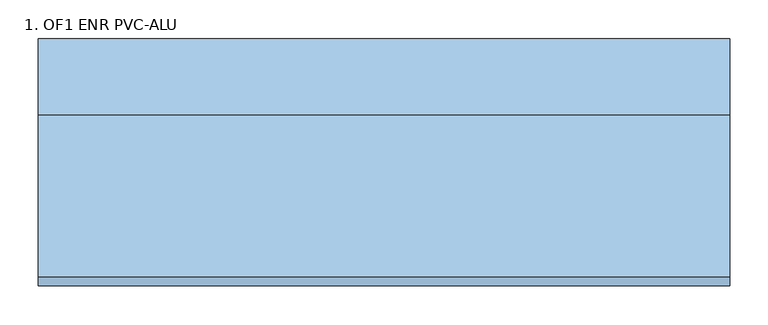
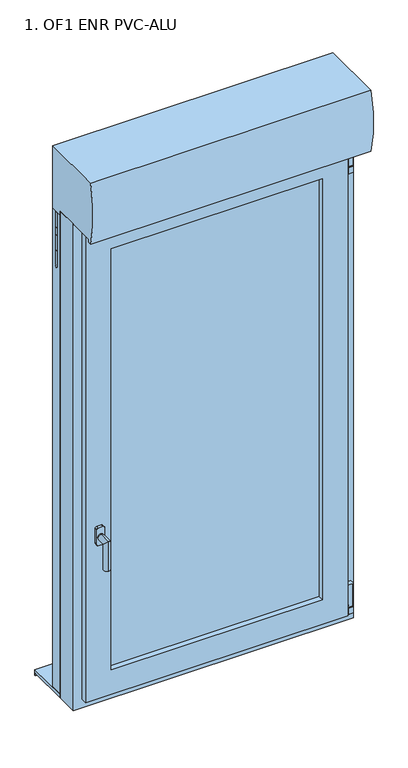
"""IFC4 building model written with IfcOpenShell, lengths in millimetres: window geometry, 1. OF1 ENR PVC-ALU : 130X165 (LXH) cm."""

from ifc_helpers import new_model, si_unit, point, frame, frame_2d, origin, place, context, project, spatial, polyline, circle_curve, ellipse_curve, trimmed, segment, composite_curve, outline, extrude, faceted_brep, source, transform, mapped, element, save
from ifc_brep_helpers import plane_surface, cylinder_surface, advanced_brep


def window_1_of1_enr_pvc_alu_93b9386a(model_context):
    return source(origin(), model_context, "Body", "SolidModel", [
        extrude(outline(composite_curve([segment(polyline([(2401.5409737, 426.552), (2401.5409737, 441.552), (2419.5473568, 441.552)]), True, "CONTINUOUS"), segment(trimmed(circle_curve(frame_2d((2419.5473568, 439.5583831)), 1.9936169), [point((2419.5473568, 441.552))], [point((2421.5409737, 439.5583831))], False, "CARTESIAN"), True, "CONTINUOUS"), segment(polyline([(2421.5409737, 439.5583831), (2421.5409737, 428.5196754)]), True, "CONTINUOUS"), segment(trimmed(circle_curve(frame_2d((2419.5732983, 428.5196754)), 1.9676754), [point((2421.5409737, 428.5196754))], [point((2419.5732983, 426.552))], False, "CARTESIAN"), True, "CONTINUOUS"), segment(polyline([(2419.5732983, 426.552), (2401.5409737, 426.552)]), True, "CONTINUOUS")], self_intersect=False)), frame((0.0, -115.0338923, 0.0), z_axis=(0.0, 1.0, 0.0), x_axis=(0.0, 0.0, 1.0)), (0.0, 0.0, 1.0), 15.0),
        extrude(outline(composite_curve([segment(trimmed(circle_curve(frame_2d((434.2725562, -107.5434807)), 5.0), [point((429.2725562, -107.5434807))], [point((439.2725562, -107.5434807))], False, "CARTESIAN"), True, "CONTINUOUS"), segment(trimmed(circle_curve(frame_2d((434.2725562, -107.5434807)), 5.0), [point((439.2725562, -107.5434807))], [point((429.2725562, -107.5434807))], False, "CARTESIAN"), True, "CONTINUOUS")], self_intersect=False)), frame((0.0, 0.0, 2341.5409737), z_axis=(0.0, 0.0, 1.0), x_axis=(1.0, 0.0, 0.0)), (0.0, 0.0, 1.0), 60.0),
        extrude(outline(composite_curve([segment(polyline([(421.552, -100.0434807), (439.5938237, -100.0434807)]), True, "CONTINUOUS"), segment(trimmed(circle_curve(frame_2d((439.5938237, -102.001657)), 1.9581763), [point((439.5938237, -100.0434807))], [point((441.552, -102.001657))], False, "CARTESIAN"), True, "CONTINUOUS"), segment(polyline([(441.552, -102.001657), (441.552, -113.0253033)]), True, "CONTINUOUS"), segment(trimmed(circle_curve(frame_2d((439.5338225, -113.0253033)), 2.0181775), [point((441.552, -113.0253033))], [point((439.5338225, -115.0434807))], False, "CARTESIAN"), True, "CONTINUOUS"), segment(polyline([(439.5338225, -115.0434807), (421.552, -115.0434807), (421.552, -100.0434807)]), True, "CONTINUOUS")], self_intersect=False)), frame((0.0, 0.0, 2347.2674355), z_axis=(0.0, 0.0, 1.0), x_axis=(1.0, 0.0, 0.0)), (0.0, 0.0, 1.0), 50.0),
        extrude(outline(composite_curve([segment(polyline([(2342.2674355, 441.7725562), (2342.2674355, 426.7725562), (2324.2766853, 426.7725562)]), True, "CONTINUOUS"), segment(trimmed(circle_curve(frame_2d((2324.2766853, 428.7818059)), 2.0092498), [point((2324.2766853, 426.7725562))], [point((2322.2674355, 428.7818059))], False, "CARTESIAN"), True, "CONTINUOUS"), segment(polyline([(2322.2674355, 428.7818059), (2322.2674355, 440.1223507)]), True, "CONTINUOUS"), segment(trimmed(circle_curve(frame_2d((2324.2411049, 439.7988867)), 2.0), [point((2322.2674355, 440.1223507))], [point((2323.9176409, 441.7725562))], False, "CARTESIAN"), True, "CONTINUOUS"), segment(polyline([(2323.9176409, 441.7725562), (2342.2674355, 441.7725562)]), True, "CONTINUOUS")], self_intersect=False)), frame((0.0, -115.0338923, 0.0), z_axis=(0.0, 1.0, 0.0), x_axis=(0.0, 0.0, 1.0)), (0.0, 0.0, 1.0), 15.0),
        extrude(outline(composite_curve([segment(trimmed(circle_curve(frame_2d((434.2725562, -107.5434807)), 5.0), [point((429.2725562, -107.5434807))], [point((439.2725562, -107.5434807))], False, "CARTESIAN"), True, "CONTINUOUS"), segment(trimmed(circle_curve(frame_2d((434.2725562, -107.5434807)), 5.0), [point((439.2725562, -107.5434807))], [point((429.2725562, -107.5434807))], False, "CARTESIAN"), True, "CONTINUOUS")], self_intersect=False)), frame((0.0, 0.0, 848.448), z_axis=(0.0, 0.0, 1.0), x_axis=(1.0, 0.0, 0.0)), (0.0, 0.0, 1.0), 5.0),
        extrude(outline(composite_curve([segment(polyline([(848.448, 441.7725562), (848.448, 426.7725562), (830.4572498, 426.7725562)]), True, "CONTINUOUS"), segment(trimmed(circle_curve(frame_2d((830.4572498, 428.7818059)), 2.0092498), [point((830.4572498, 426.7725562))], [point((828.448, 428.7818059))], False, "CARTESIAN"), True, "CONTINUOUS"), segment(polyline([(828.448, 428.7818059), (828.448, 440.1223507)]), True, "CONTINUOUS"), segment(trimmed(circle_curve(frame_2d((830.4216694, 439.7988867)), 2.0), [point((828.448, 440.1223507))], [point((830.0982054, 441.7725562))], False, "CARTESIAN"), True, "CONTINUOUS"), segment(polyline([(830.0982054, 441.7725562), (848.448, 441.7725562)]), True, "CONTINUOUS")], self_intersect=False)), frame((0.0, -115.0338923, 0.0), z_axis=(0.0, 1.0, 0.0), x_axis=(0.0, 0.0, 1.0)), (0.0, 0.0, 1.0), 15.0),
        extrude(outline(composite_curve([segment(polyline([(421.552, -100.0434807), (439.5938237, -100.0434807)]), True, "CONTINUOUS"), segment(trimmed(circle_curve(frame_2d((439.5938237, -102.001657)), 1.9581763), [point((439.5938237, -100.0434807))], [point((441.552, -102.001657))], False, "CARTESIAN"), True, "CONTINUOUS"), segment(polyline([(441.552, -102.001657), (441.552, -113.0253033)]), True, "CONTINUOUS"), segment(trimmed(circle_curve(frame_2d((439.5338225, -113.0253033)), 2.0181775), [point((441.552, -113.0253033))], [point((439.5338225, -115.0434807))], False, "CARTESIAN"), True, "CONTINUOUS"), segment(polyline([(439.5338225, -115.0434807), (421.552, -115.0434807), (421.552, -100.0434807)]), True, "CONTINUOUS")], self_intersect=False)), frame((0.0, 0.0, 853.448), z_axis=(0.0, 0.0, 1.0), x_axis=(1.0, 0.0, 0.0)), (0.0, 0.0, 1.0), 75.0),
        faceted_brep([(449.992, -28.9, 2450.0), (449.992, -100.02, 2450.0), (449.992, -100.02, 800.0), (449.992, -28.9, 800.0), (-450.008, -100.02, 2450.0), (-450.008, -100.02, 800.0), (413.416, -100.02, 836.576), (-413.432, -100.02, 836.576), (-413.432, -100.02, 2413.424), (413.416, -100.02, 2413.424), (-450.008, -28.9, 800.0), (-450.008, -28.9, 2450.0), (392.0903858, -28.9, 2392.0983858), (-392.1063858, -28.9, 2392.0983858), (-392.1063858, -28.9, 857.9016142), (392.0903858, -28.9, 857.9016142), (413.416, -44.648, 2413.424), (413.416, -44.648, 836.576), (-413.432, -44.648, 2413.424), (-413.432, -44.648, 836.576), (392.0903858, -44.648, 857.9016142), (-392.1063858, -44.648, 857.9016142), (-392.1063858, -44.648, 2392.0983858), (392.0903858, -44.648, 2392.0983858)], [[[0, 1, 2, 3]], [[1, 4, 5, 2], [6, 7, 8, 9]], [[3, 2, 5, 10]], [[3, 10, 11, 0], [12, 13, 14, 15]], [[9, 16, 17, 6]], [[16, 18, 19, 17], [20, 21, 22, 23]], [[6, 17, 19, 7]], [[23, 12, 15, 20]], [[20, 15, 14, 21]], [[10, 5, 4, 11]], [[7, 19, 18, 8]], [[21, 14, 13, 22]], [[11, 4, 1, 0]], [[8, 18, 16, 9]], [[22, 13, 12, 23]]]),
        faceted_brep([(-450.0, -100.02, 2450.0), (-450.0, -28.9, 2450.0), (-450.0, -28.9, 800.0), (-450.0, -100.02, 800.0), (450.0, -28.9, 2450.0), (450.0, -28.9, 800.0), (-392.0983858, -28.9, 857.9016142), (392.0983858, -28.9, 857.9016142), (392.0983858, -28.9, 2392.0983858), (-392.0983858, -28.9, 2392.0983858), (450.0, -100.02, 800.0), (450.0, -100.02, 2450.0), (-413.424, -100.02, 2413.424), (413.424, -100.02, 2413.424), (413.424, -100.02, 836.576), (-413.424, -100.02, 836.576), (-413.424, -44.648, 2413.424), (-413.424, -44.648, 836.576), (413.424, -44.648, 836.576), (413.424, -44.648, 2413.424), (-392.0983858, -44.648, 2392.0983858), (392.0983858, -44.648, 2392.0983858), (392.0983858, -44.648, 857.9016142), (-392.0983858, -44.648, 857.9016142)], [[[0, 1, 2, 3]], [[1, 4, 5, 2], [6, 7, 8, 9]], [[3, 2, 5, 10]], [[3, 10, 11, 0], [12, 13, 14, 15]], [[16, 12, 15, 17]], [[17, 15, 14, 18]], [[17, 18, 19, 16], [20, 21, 22, 23]], [[9, 20, 23, 6]], [[6, 23, 22, 7]], [[10, 5, 4, 11]], [[18, 14, 13, 19]], [[7, 22, 21, 8]], [[11, 4, 1, 0]], [[19, 13, 12, 16]], [[8, 21, 20, 9]]]),
        extrude(outline(polyline([(353.4, -96.019954), (353.4, -100.019954), (-353.4, -100.019954), (-353.4, -96.019954), (353.4, -96.019954)])), frame((0.0, 0.0, 896.5824883), z_axis=(0.0, 0.0, 1.0), x_axis=(1.0, 0.0, 0.0)), (0.0, 0.0, 1.0), 1456.8350233),
        extrude(outline(polyline([(353.4, -68.9786213), (353.4, -72.9786213), (-353.4, -72.9786213), (-353.4, -68.9786213), (353.4, -68.9786213)])), frame((0.0, 0.0, 896.5824883), z_axis=(0.0, 0.0, 1.0), x_axis=(1.0, 0.0, 0.0)), (0.0, 0.0, 1.0), 1456.8350233),
        extrude(outline(polyline([(353.4, -41.9786213), (353.4, -45.9786213), (-353.4, -45.9786213), (-353.4, -41.9786213), (353.4, -41.9786213)])), frame((0.0, 0.0, 896.5824883), z_axis=(0.0, 0.0, 1.0), x_axis=(1.0, 0.0, 0.0)), (0.0, 0.0, 1.0), 1456.8350233),
        faceted_brep([(361.6086701, -48.2039543, 2361.6086701), (361.6086701, -100.019954, 2361.6086701), (361.6086701, -100.019954, 888.3913299), (361.6086701, -48.2039543, 888.3913299), (-361.6086701, -100.019954, 2361.6086701), (-361.6086701, -100.019954, 888.3913299), (353.4175117, -100.019954, 896.5824883), (-353.4175117, -100.019954, 896.5824883), (-353.4175117, -100.019954, 2353.4175117), (353.4175117, -100.019954, 2353.4175117), (-361.6086701, -48.2039543, 888.3913299), (-386.5514701, -48.2039543, 2386.5514701), (-386.5514701, -48.2039543, 863.4485299), (386.5514701, -48.2039543, 863.4485299), (386.5514701, -48.2039543, 2386.5514701), (-361.6086701, -48.2039543, 2361.6086701), (386.5514701, -28.7475756, 2386.5514701), (386.5514701, -28.7475756, 863.4485299), (-386.5514701, -28.7475756, 863.4485299), (-386.5514701, -28.7475756, 2386.5514701), (-335.3393386, -28.7475756, 2335.3393386), (-335.3393386, -28.7475756, 914.6606614), (335.3393386, -28.7475756, 914.6606614), (335.3393386, -28.7475756, 2335.3393386), (335.3393386, -41.9786213, 2335.3393386), (335.3393386, -41.9786213, 914.6606614), (-335.3393386, -41.9786213, 914.6606614), (-353.4175117, -41.9786213, 2353.4175117), (-353.4175117, -41.9786213, 896.5824883), (353.4175117, -41.9786213, 896.5824883), (353.4175117, -41.9786213, 2353.4175117), (-335.3393386, -41.9786213, 2335.3393386), (339.5240492, -96.019954, 2339.5240492), (339.5240492, -72.9786213, 2339.5240492), (339.5240492, -72.9786213, 910.4759508), (339.5240492, -96.019954, 910.4759508), (353.4175117, -72.9786213, 896.5824883), (-353.4175117, -72.9786213, 896.5824883), (-353.4175117, -72.9786213, 2353.4175117), (353.4175117, -72.9786213, 2353.4175117), (-339.5240492, -72.9786213, 2339.5240492), (-339.5240492, -72.9786213, 910.4759508), (-339.5240492, -96.019954, 910.4759508), (-353.4175117, -96.019954, 2353.4175117), (-353.4175117, -96.019954, 896.5824883), (353.4175117, -96.019954, 896.5824883), (353.4175117, -96.019954, 2353.4175117), (-339.5240492, -96.019954, 2339.5240492), (353.4175117, -68.9786213, 2353.4175117), (353.4175117, -68.9786213, 896.5824883), (-353.4175117, -68.9786213, 2353.4175117), (-353.4175117, -68.9786213, 896.5824883), (336.1974041, -68.9786213, 913.8025959), (-336.1974041, -68.9786213, 913.8025959), (-336.1974041, -68.9786213, 2336.1974041), (336.1974041, -68.9786213, 2336.1974041), (353.4175117, -45.9786213, 2353.4175117), (353.4175117, -45.9786213, 896.5824883), (-353.4175117, -45.9786213, 896.5824883), (-353.4175117, -45.9786213, 2353.4175117), (-336.1974041, -45.9786213, 2336.1974041), (-336.1974041, -45.9786213, 913.8025959), (336.1974041, -45.9786213, 913.8025959), (336.1974041, -45.9786213, 2336.1974041)], [[[0, 1, 2, 3]], [[4, 5, 2, 1], [6, 7, 8, 9]], [[3, 2, 5, 10]], [[11, 12, 13, 14], [3, 10, 15, 0]], [[16, 14, 13, 17]], [[17, 13, 12, 18]], [[17, 18, 19, 16], [20, 21, 22, 23]], [[24, 23, 22, 25]], [[25, 22, 21, 26]], [[27, 28, 29, 30], [25, 26, 31, 24]], [[32, 33, 34, 35]], [[36, 37, 38, 39], [33, 40, 41, 34]], [[35, 34, 41, 42]], [[43, 44, 45, 46], [35, 42, 47, 32]], [[9, 46, 45, 6]], [[6, 45, 44, 7]], [[39, 48, 49, 36]], [[50, 51, 49, 48], [52, 53, 54, 55]], [[36, 49, 51, 37]], [[56, 30, 29, 57]], [[57, 29, 28, 58]], [[57, 58, 59, 56], [60, 61, 62, 63]], [[55, 63, 62, 52]], [[52, 62, 61, 53]], [[42, 41, 40, 47]], [[7, 44, 43, 8]], [[10, 5, 4, 15]], [[18, 12, 11, 19]], [[26, 21, 20, 31]], [[58, 28, 27, 59]], [[53, 61, 60, 54]], [[37, 51, 50, 38]], [[15, 4, 1, 0]], [[19, 11, 14, 16]], [[31, 20, 23, 24]], [[47, 40, 33, 32]], [[8, 43, 46, 9]], [[38, 50, 48, 39]], [[59, 27, 30, 56]], [[54, 60, 63, 55]]]),
        faceted_brep([(-421.552, -119.3239543, 828.448), (-421.552, -100.0434807, 828.448), (421.552, -100.0434807, 828.448), (421.552, -119.3239543, 828.448), (421.552, -100.0434807, 2421.552), (421.552, -119.3239543, 2421.552), (-421.552, -100.0434807, 2421.552), (401.232, -100.0434807, 2401.232), (-401.232, -100.0434807, 2401.232), (-401.232, -100.0434807, 848.768), (401.232, -100.0434807, 848.768), (-421.552, -119.3239543, 2421.552), (339.3505043, -119.3239543, 910.6494957), (-339.3505043, -119.3239543, 910.6494957), (-339.3505043, -119.3239543, 2339.3505043), (339.3505043, -119.3239543, 2339.3505043), (-339.3505043, -100.019954, 910.6494957), (339.3505043, -100.019954, 910.6494957), (339.3505043, -100.019954, 2339.3505043), (361.6086701, -100.019954, 888.3913299), (-361.6086701, -100.019954, 888.3913299), (-361.6086701, -100.019954, 2361.6086701), (361.6086701, -100.019954, 2361.6086701), (-339.3505043, -100.019954, 2339.3505043), (-361.6086701, -48.2039543, 888.3913299), (361.6086701, -48.2039543, 888.3913299), (361.6086701, -48.2039543, 2361.6086701), (392.0983858, -48.2039543, 857.9016142), (-392.0983858, -48.2039543, 857.9016142), (-392.0983858, -48.2039543, 2392.0983858), (392.0983858, -48.2039543, 2392.0983858), (-361.6086701, -48.2039543, 2361.6086701), (-392.0983858, -44.648, 857.9016142), (392.0983858, -44.648, 857.9016142), (392.0983858, -44.648, 2392.0983858), (401.232, -44.648, 848.768), (-401.232, -44.648, 848.768), (-401.232, -44.648, 2401.232), (401.232, -44.648, 2401.232), (-392.0983858, -44.648, 2392.0983858)], [[[0, 1, 2, 3]], [[3, 2, 4, 5]], [[2, 1, 6, 4], [7, 8, 9, 10]], [[5, 11, 0, 3], [12, 13, 14, 15]], [[16, 13, 12, 17]], [[17, 12, 15, 18]], [[19, 20, 21, 22], [18, 23, 16, 17]], [[24, 20, 19, 25]], [[25, 19, 22, 26]], [[27, 28, 29, 30], [26, 31, 24, 25]], [[32, 28, 27, 33]], [[33, 27, 30, 34]], [[35, 36, 37, 38], [34, 39, 32, 33]], [[9, 36, 35, 10]], [[10, 35, 38, 7]], [[11, 6, 1, 0]], [[23, 14, 13, 16]], [[31, 21, 20, 24]], [[39, 29, 28, 32]], [[8, 37, 36, 9]], [[5, 4, 6, 11]], [[18, 15, 14, 23]], [[26, 22, 21, 31]], [[34, 30, 29, 39]], [[7, 38, 37, 8]]]),
        extrude(outline(composite_curve([segment(polyline([(-186.3991192, 2440.3409737), (-197.3316724, 2440.3409737)]), True, "CONTINUOUS"), segment(trimmed(circle_curve(frame_2d((189.1050523, 2543.6204869)), 400.0), [point((-197.3316724, 2440.3409737))], [point((-197.3316724, 2646.9))], False, "CARTESIAN"), True, "CONTINUOUS"), segment(polyline([(-197.3316724, 2646.9), (13.0999994, 2646.9), (13.0999994, 2436.0216226), (-4.9499979, 2436.0216226), (-4.9499979, 2434.2216225), (-2.7215215, 2434.2216225), (-2.7215215, 2409.9791617), (-4.9499979, 2409.9791617), (-4.9499979, 2408.1791616), (-2.7215215, 2408.1791616), (-2.7215215, 2383.9367008), (-4.9499979, 2383.9367008), (-4.9499979, 2382.1367006), (-2.7215215, 2382.1367006), (-2.7215215, 2357.8942398), (-4.9499979, 2357.8942398), (-4.9499979, 2356.0942397), (-2.7215215, 2356.0942397), (-2.7215215, 2331.8517789), (-4.9499979, 2331.8517789), (-4.9499979, 2330.0517788), (-2.7215215, 2330.0517788), (-2.7215215, 2305.809318), (-4.9499979, 2305.809318), (-4.9499979, 2304.0093179), (-2.7215215, 2304.0093179), (-2.7215215, 2279.7668571), (-4.9499979, 2279.7668571), (-4.9499979, 2277.966857), (-2.7215215, 2277.966857), (-2.7215215, 2253.7243961), (-4.9499979, 2253.7243961), (-4.9499979, 2251.9243963), (-3.044091, 2251.9243963), (-3.044091, 2248.977424), (-6.4, 2245.6232688), (-9.8999992, 2248.9774251), (-9.8999992, 2251.9243963), (-7.7499979, 2251.9243963), (-7.7499979, 2253.7243961), (-9.9999979, 2253.7243961), (-9.9999979, 2277.9668572), (-7.7499979, 2277.9668572), (-7.7499979, 2279.7668571), (-9.9999979, 2279.7668571), (-9.9999979, 2304.0093181), (-7.7499979, 2304.0093181), (-7.7499979, 2305.809318), (-9.9999979, 2305.809318), (-9.9999979, 2330.051779), (-7.7499979, 2330.051779), (-7.7499979, 2331.8517789), (-9.9999979, 2331.8517789), (-9.9999979, 2356.09424), (-7.7499979, 2356.09424), (-7.7499979, 2357.8942398), (-9.9999979, 2357.8942398), (-9.9999979, 2382.1367009), (-7.7499979, 2382.1367009), (-7.7499979, 2383.9367008), (-9.9999979, 2383.9367008), (-9.9999979, 2408.1791618), (-7.7499979, 2408.1791618), (-7.7499979, 2409.9791617), (-9.9999979, 2409.9791617), (-9.9999979, 2434.2216227), (-7.7499979, 2434.2216227), (-7.7499979, 2436.0216226), (-28.9, 2436.0216226), (-28.9, 2450.0), (-186.3991192, 2450.0), (-186.3991192, 2440.3409737)]), True, "CONTINUOUS")], self_intersect=False)), frame((-450.008, 0.0, 0.0), z_axis=(1.0, 0.0, 0.0), x_axis=(0.0, 1.0, 0.0)), (0.0, 0.0, 1.0), 900.008),
        advanced_brep(
        [(-378.3268127, -129.3239543, 1392.2518349), (-378.3268127, -129.3239543, 1372.2518349), (-378.3268127, -133.0531938, 1372.2518349), (-378.3268127, -133.0531938, 1392.2518349), (-378.3268127, -173.0531938, 1392.2518349), (-378.3268127, -153.0531938, 1372.2518349), (-378.3268127, -173.0531938, 1292.2518349), (-378.3268127, -153.0531938, 1292.2518349)],
        [
            (0, 1, circle_curve(frame((-378.3268127, -129.3239543, 1382.2518349), z_axis=(0.0, 1.0, 0.0), x_axis=(0.0, 0.0, -1.0)), 10.0)),
            (1, 0, circle_curve(frame((-378.3268127, -129.3239543, 1382.2518349), z_axis=(0.0, 1.0, 0.0), x_axis=(0.0, 0.0, -1.0)), 10.0)),
            (2, 3, circle_curve(frame((-378.3268127, -133.0531938, 1382.2518349), z_axis=(0.0, -1.0, 0.0), x_axis=(0.0, 0.0, -1.0)), 10.0)),
            (3, 4),
            (4, 5, ellipse_curve(frame((-378.3268127, -163.0531938, 1382.2518349), z_axis=(0.0, 0.7071067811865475, 0.7071067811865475), x_axis=(0.0, 0.7071067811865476, -0.7071067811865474)), 14.1421356, 10.0)),
            (5, 2),
            (3, 2, circle_curve(frame((-378.3268127, -133.0531938, 1382.2518349), z_axis=(0.0, -1.0, 0.0), x_axis=(0.0, 0.0, -1.0)), 10.0)),
            (5, 4, ellipse_curve(frame((-378.3268127, -163.0531938, 1382.2518349), z_axis=(0.0, 0.7071067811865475, 0.7071067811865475), x_axis=(0.0, 0.7071067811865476, -0.7071067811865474)), 14.1421356, 10.0)),
            (6, 7, circle_curve(frame((-378.3268127, -163.0531938, 1292.2518349), z_axis=(0.0, 0.0, -1.0), x_axis=(0.0, 1.0, 0.0)), 10.0)),
            (7, 6, circle_curve(frame((-378.3268127, -163.0531938, 1292.2518349), z_axis=(0.0, 0.0, -1.0), x_axis=(0.0, 1.0, 0.0)), 10.0)),
            (4, 6),
            (7, 5),
            (0, 3),
            (2, 1),
        ],
        [
            plane_surface(frame((-366.104, -129.3239543, 1382.2518349), z_axis=(0.0, 1.0, 0.0), x_axis=(1.0, 0.0, 0.0))),
            cylinder_surface(frame((-378.3268127, -133.0531938, 1382.2518349), z_axis=(0.0, 1.0, 0.0), x_axis=(0.0, 0.0, -1.0)), 10.0),
            plane_surface(frame((-366.104, -163.0531938, 1292.2518349), z_axis=(0.0, 0.0, -1.0), x_axis=(1.0, 0.0, 0.0))),
            cylinder_surface(frame((-378.3268127, -163.0531938, 1382.2518349), z_axis=(0.0, 0.0, 1.0), x_axis=(0.0, 1.0, 0.0)), 10.0),
            cylinder_surface(frame((-378.3268127, -129.3239543, 1382.2518349), z_axis=(0.0, 1.0, 0.0), x_axis=(0.0, 0.0, -1.0)), 10.0),
        ],
        [
            (0, [[1, 2]]),
            (1, [[3, 4, 5, 6]]),
            (1, [[7, -6, 8, -4]]),
            (2, [[9, 10]]),
            (3, [[-5, 11, -10, 12]]),
            (3, [[-8, -12, -9, -11]]),
            (4, [[-1, 13, -3, 14]]),
            (4, [[-2, -14, -7, -13]]),
        ],
    ),
        extrude(outline(composite_curve([segment(polyline([(1414.448, -371.104), (1414.448, -386.104)]), True, "CONTINUOUS"), segment(trimmed(circle_curve(frame_2d((1409.448, -386.104)), 5.0), [point((1414.448, -386.104))], [point((1409.448, -391.104))], False, "CARTESIAN"), True, "CONTINUOUS"), segment(polyline([(1409.448, -391.104), (1359.448, -391.104)]), True, "CONTINUOUS"), segment(trimmed(circle_curve(frame_2d((1359.448, -386.104)), 5.0), [point((1359.448, -391.104))], [point((1354.448, -386.104))], False, "CARTESIAN"), True, "CONTINUOUS"), segment(polyline([(1354.448, -386.104), (1354.448, -371.104)]), True, "CONTINUOUS"), segment(trimmed(circle_curve(frame_2d((1359.448, -371.104)), 5.0), [point((1354.448, -371.104))], [point((1359.448, -366.104))], False, "CARTESIAN"), True, "CONTINUOUS"), segment(polyline([(1359.448, -366.104), (1409.448, -366.104)]), True, "CONTINUOUS"), segment(trimmed(circle_curve(frame_2d((1409.448, -371.104)), 5.0), [point((1409.448, -366.104))], [point((1414.448, -371.104))], False, "CARTESIAN"), True, "CONTINUOUS")], self_intersect=False)), frame((0.0, -129.3239543, 0.0), z_axis=(0.0, 1.0, 0.0), x_axis=(0.0, 0.0, 1.0)), (0.0, 0.0, 1.0), 10.0),
        extrude(outline(polyline([(-28.9, 800.0), (-28.9, 812.9639252), (113.0, 809.77529), (113.0, 790.0), (110.0, 790.0), (110.0, 800.0), (-28.9, 800.0)])), frame((-450.0, 0.0, 0.0), z_axis=(1.0, 0.0, 0.0), x_axis=(0.0, 1.0, 0.0)), (0.0, 0.0, 1.0), 900.0),
        extrude(outline(polyline([(-449.0, -28.9), (-450.0, -28.9), (-450.0, 13.1), (-449.0, 13.1), (-449.0, 2.1), (-429.0, 2.1), (-429.0, -0.9), (-449.0, -0.9), (-449.0, -11.9), (-429.0, -11.9), (-429.0, -14.9), (-449.0, -14.9), (-449.0, -28.9)])), frame((0.0, 0.0, 812.9639252), z_axis=(0.0, 0.0, 1.0), x_axis=(1.0, 0.0, 0.0)), (0.0, 0.0, 1.0), 1623.1),
        extrude(outline(polyline([(448.992, -28.9), (448.992, -14.9), (428.992, -14.9), (428.992, -11.9), (448.992, -11.9), (448.992, -0.9), (428.992, -0.9), (428.992, 2.1), (448.992, 2.1), (448.992, 13.1), (449.992, 13.1), (449.992, -28.9), (448.992, -28.9)])), frame((0.0, 0.0, 812.9639252), z_axis=(0.0, 0.0, 1.0), x_axis=(1.0, 0.0, 0.0)), (0.0, 0.0, 1.0), 1623.1),
    ])


if __name__ == "__main__":
    model = new_model("IFC4")
    model_context = context("Model", 3, world=origin())
    ifc_project = project(units=[si_unit("LENGTHUNIT", "METRE", prefix="MILLI")], contexts=[model_context])
    site = spatial("IfcSite", under=ifc_project)
    building = spatial("IfcBuilding", under=site)
    placement = place(None, origin())
    window_1_of1_enr_pvc_alu_shape = window_1_of1_enr_pvc_alu_93b9386a(model_context)
    element("IfcWindow", 1, ObjectType="1. OF1 ENR PVC-ALU : 130X165 (LXH) cm", at=placement, inside=building, context=model_context, shape_type="MappedRepresentation", body=[
        mapped(window_1_of1_enr_pvc_alu_shape, transform((0.0, 0.0, 0.0), x_axis=(1.0, 0.0, 0.0), y_axis=(0.0, 1.0, 0.0), z_axis=(0.0, 0.0, 1.0))),
    ])
    save(model, "model.ifc")
